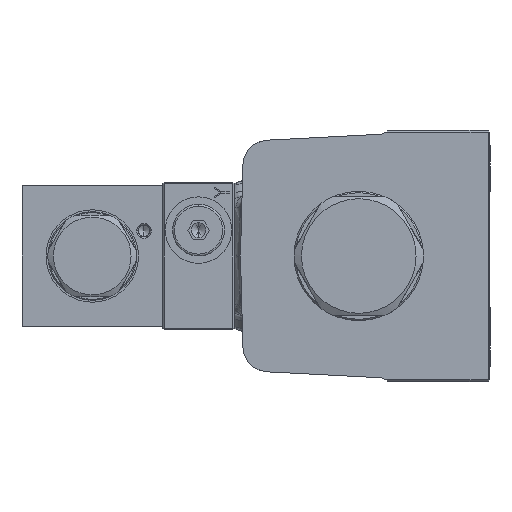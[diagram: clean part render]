
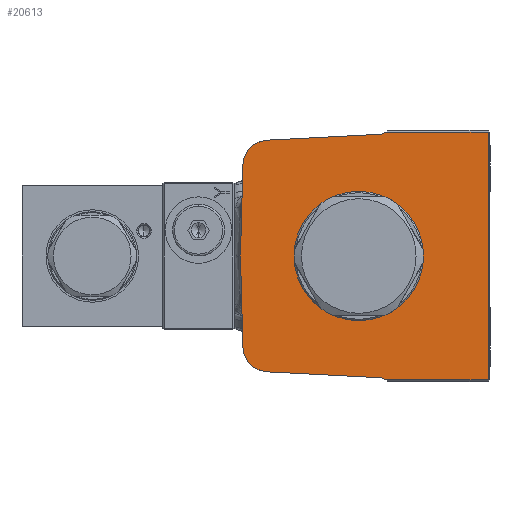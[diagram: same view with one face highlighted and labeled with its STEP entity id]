
A CAD part, left-side view. The second image highlights one B-rep face of the part: STEP entity #20613.
In plain terms, the highlighted planar face has unit normal (-1, 0, 0).
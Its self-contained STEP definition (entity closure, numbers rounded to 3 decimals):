
#478 = ORIENTED_EDGE ( 'NONE', *, *, #12609, .F. ) ;
#690 = LINE ( 'NONE', #26859, #79748 ) ;
#1852 = EDGE_CURVE ( 'NONE', #63688, #19487, #690, .T. ) ;
#1980 = DIRECTION ( 'NONE',  ( 0., 0., 1. ) ) ;
#3201 = CIRCLE ( 'NONE', #40745, 16. ) ;
#3906 = DIRECTION ( 'NONE',  ( 0., 1., 0. ) ) ;
#5362 = AXIS2_PLACEMENT_3D ( 'NONE', #61129, #23699, #67431 ) ;
#5393 = VECTOR ( 'NONE', #47706, 1000. ) ;
#5508 = EDGE_CURVE ( 'NONE', #37498, #10747, #43025, .T. ) ;
#6969 = DIRECTION ( 'NONE',  ( -1., 0., 0. ) ) ;
#10415 = CARTESIAN_POINT ( 'NONE',  ( -46.6, 1.706, -32.544 ) ) ;
#10747 = VERTEX_POINT ( 'NONE', #21587 ) ;
#11181 = EDGE_CURVE ( 'NONE', #10747, #27205, #58104, .T. ) ;
#11840 = VECTOR ( 'NONE', #69205, 1000. ) ;
#11846 = CARTESIAN_POINT ( 'NONE',  ( -46.6, 24.726, -31.337 ) ) ;
#12302 = DIRECTION ( 'NONE',  ( 1., 0., 0. ) ) ;
#12567 = CARTESIAN_POINT ( 'NONE',  ( -46.6, 24.36, -24.347 ) ) ;
#12609 = EDGE_CURVE ( 'NONE', #38409, #61840, #3201, .T. ) ;
#13473 = FACE_OUTER_BOUND ( 'NONE', #65236, .T. ) ;
#14253 = CIRCLE ( 'NONE', #38541, 7. ) ;
#14458 = DIRECTION ( 'NONE',  ( 0., -0.026, -1. ) ) ;
#14746 = CIRCLE ( 'NONE', #69027, 7. ) ;
#16098 = CARTESIAN_POINT ( 'NONE',  ( -46.6, 31.358, -24.53 ) ) ;
#16667 = VERTEX_POINT ( 'NONE', #16098 ) ;
#16931 = EDGE_CURVE ( 'NONE', #28523, #19487, #59799, .T. ) ;
#17509 = ORIENTED_EDGE ( 'NONE', *, *, #16931, .T. ) ;
#18831 = DIRECTION ( 'NONE',  ( 0., 0., 1. ) ) ;
#19233 = CARTESIAN_POINT ( 'NONE',  ( -46.6, -35.5, -33.5 ) ) ;
#19487 = VERTEX_POINT ( 'NONE', #33732 ) ;
#19583 = ORIENTED_EDGE ( 'NONE', *, *, #20646, .T. ) ;
#19761 = CARTESIAN_POINT ( 'NONE',  ( -46.6, -35., 33.5 ) ) ;
#19875 = ORIENTED_EDGE ( 'NONE', *, *, #79630, .T. ) ;
#20613 = ADVANCED_FACE ( 'NONE', ( #13473, #61284 ), #35972, .T. ) ;
#20646 = EDGE_CURVE ( 'NONE', #69778, #37498, #64188, .T. ) ;
#20871 = DIRECTION ( 'NONE',  ( 0., -0.999, 0.052 ) ) ;
#20985 = CARTESIAN_POINT ( 'NONE',  ( -46.6, 31.978, -0.837 ) ) ;
#21587 = CARTESIAN_POINT ( 'NONE',  ( -46.6, -35., -33.5 ) ) ;
#22281 = DIRECTION ( 'NONE',  ( 1., 0., 0. ) ) ;
#23699 = DIRECTION ( 'NONE',  ( -1., 0., 0. ) ) ;
#25138 = CARTESIAN_POINT ( 'NONE',  ( -46.6, 16., 0. ) ) ;
#26494 = ORIENTED_EDGE ( 'NONE', *, *, #60174, .F. ) ;
#26859 = CARTESIAN_POINT ( 'NONE',  ( -46.6, 1.706, 32.544 ) ) ;
#27205 = VERTEX_POINT ( 'NONE', #19761 ) ;
#27425 = AXIS2_PLACEMENT_3D ( 'NONE', #59654, #22281, #65977 ) ;
#28523 = VERTEX_POINT ( 'NONE', #73587 ) ;
#30565 = LINE ( 'NONE', #41143, #61862 ) ;
#31410 = DIRECTION ( 'NONE',  ( -1., 0., 0. ) ) ;
#33015 = CARTESIAN_POINT ( 'NONE',  ( -46.6, 31.358, 24.53 ) ) ;
#33732 = CARTESIAN_POINT ( 'NONE',  ( -46.6, -5.85, 32.94 ) ) ;
#34148 = VERTEX_POINT ( 'NONE', #11846 ) ;
#34557 = AXIS2_PLACEMENT_3D ( 'NONE', #49567, #12302, #55888 ) ;
#35379 = CARTESIAN_POINT ( 'NONE',  ( -46.6, -16., 0. ) ) ;
#35724 = DIRECTION ( 'NONE',  ( -1., 0., 0. ) ) ;
#35972 = PLANE ( 'NONE',  #5362 ) ;
#36264 = ORIENTED_EDGE ( 'NONE', *, *, #51261, .T. ) ;
#36851 = ORIENTED_EDGE ( 'NONE', *, *, #5508, .T. ) ;
#37498 = VERTEX_POINT ( 'NONE', #70019 ) ;
#38409 = VERTEX_POINT ( 'NONE', #35379 ) ;
#38541 = AXIS2_PLACEMENT_3D ( 'NONE', #44270, #6969, #50499 ) ;
#40745 = AXIS2_PLACEMENT_3D ( 'NONE', #73249, #35724, #79534 ) ;
#40935 = ORIENTED_EDGE ( 'NONE', *, *, #63445, .T. ) ;
#41143 = CARTESIAN_POINT ( 'NONE',  ( -46.6, -35.5, 33.5 ) ) ;
#41477 = LINE ( 'NONE', #20985, #58113 ) ;
#42450 = EDGE_CURVE ( 'NONE', #71842, #72882, #60929, .T. ) ;
#43025 = LINE ( 'NONE', #19233, #11840 ) ;
#43176 = ORIENTED_EDGE ( 'NONE', *, *, #42450, .F. ) ;
#44270 = CARTESIAN_POINT ( 'NONE',  ( -46.6, 24.36, 24.347 ) ) ;
#44282 = VECTOR ( 'NONE', #69146, 1000. ) ;
#47706 = DIRECTION ( 'NONE',  ( 0., -0.999, -0.052 ) ) ;
#49567 = CARTESIAN_POINT ( 'NONE',  ( -46.6, -5.693, -35.936 ) ) ;
#50499 = DIRECTION ( 'NONE',  ( 0., 0., 1. ) ) ;
#51261 = EDGE_CURVE ( 'NONE', #71842, #16667, #41477, .T. ) ;
#51767 = ORIENTED_EDGE ( 'NONE', *, *, #71392, .T. ) ;
#55888 = DIRECTION ( 'NONE',  ( 0., 0., 1. ) ) ;
#56131 = VECTOR ( 'NONE', #1980, 1000. ) ;
#56170 = DIRECTION ( 'NONE',  ( 1., 0., 0. ) ) ;
#56873 = ORIENTED_EDGE ( 'NONE', *, *, #11181, .T. ) ;
#57019 = EDGE_CURVE ( 'NONE', #34148, #16667, #14746, .T. ) ;
#58104 = LINE ( 'NONE', #64095, #56131 ) ;
#58113 = VECTOR ( 'NONE', #14458, 1000. ) ;
#58934 = CARTESIAN_POINT ( 'NONE',  ( -46.6, -5.85, -32.94 ) ) ;
#59246 = CARTESIAN_POINT ( 'NONE',  ( -46.6, 24.726, 31.337 ) ) ;
#59654 = CARTESIAN_POINT ( 'NONE',  ( -46.6, -5.693, 35.936 ) ) ;
#59799 = CIRCLE ( 'NONE', #27425, 3. ) ;
#60174 = EDGE_CURVE ( 'NONE', #61840, #38409, #79473, .T. ) ;
#60929 = LINE ( 'NONE', #75207, #44282 ) ;
#61129 = CARTESIAN_POINT ( 'NONE',  ( -46.6, -35.5, -34. ) ) ;
#61284 = FACE_BOUND ( 'NONE', #78574, .T. ) ;
#61840 = VERTEX_POINT ( 'NONE', #25138 ) ;
#61862 = VECTOR ( 'NONE', #3906, 1000. ) ;
#61913 = ORIENTED_EDGE ( 'NONE', *, *, #57019, .F. ) ;
#63445 = EDGE_CURVE ( 'NONE', #63688, #72882, #14253, .T. ) ;
#63688 = VERTEX_POINT ( 'NONE', #59246 ) ;
#64095 = CARTESIAN_POINT ( 'NONE',  ( -46.6, -35., -34. ) ) ;
#64103 = CARTESIAN_POINT ( 'NONE',  ( -46.6, 32., 0. ) ) ;
#64188 = CIRCLE ( 'NONE', #34557, 3. ) ;
#65236 = EDGE_LOOP ( 'NONE', ( #19583, #36851, #56873, #51767, #17509, #73496, #40935, #43176, #36264, #61913, #19875 ) ) ;
#65950 = AXIS2_PLACEMENT_3D ( 'NONE', #68890, #31410, #75225 ) ;
#65977 = DIRECTION ( 'NONE',  ( 0., 0., 1. ) ) ;
#67431 = DIRECTION ( 'NONE',  ( 0., 0., 1. ) ) ;
#68890 = CARTESIAN_POINT ( 'NONE',  ( -46.6, 0., 0. ) ) ;
#69027 = AXIS2_PLACEMENT_3D ( 'NONE', #12567, #56170, #18831 ) ;
#69146 = DIRECTION ( 'NONE',  ( 0., -0.026, 1. ) ) ;
#69205 = DIRECTION ( 'NONE',  ( 0., -1., 0. ) ) ;
#69778 = VERTEX_POINT ( 'NONE', #58934 ) ;
#69851 = LINE ( 'NONE', #10415, #5393 ) ;
#70019 = CARTESIAN_POINT ( 'NONE',  ( -46.6, -7.444, -33.5 ) ) ;
#71392 = EDGE_CURVE ( 'NONE', #27205, #28523, #30565, .T. ) ;
#71842 = VERTEX_POINT ( 'NONE', #64103 ) ;
#72882 = VERTEX_POINT ( 'NONE', #33015 ) ;
#73249 = CARTESIAN_POINT ( 'NONE',  ( -46.6, 0., 0. ) ) ;
#73496 = ORIENTED_EDGE ( 'NONE', *, *, #1852, .F. ) ;
#73587 = CARTESIAN_POINT ( 'NONE',  ( -46.6, -7.444, 33.5 ) ) ;
#75207 = CARTESIAN_POINT ( 'NONE',  ( -46.6, 31.978, 0.837 ) ) ;
#75225 = DIRECTION ( 'NONE',  ( 0., -1., 0. ) ) ;
#78574 = EDGE_LOOP ( 'NONE', ( #478, #26494 ) ) ;
#79473 = CIRCLE ( 'NONE', #65950, 16. ) ;
#79534 = DIRECTION ( 'NONE',  ( 0., -1., 0. ) ) ;
#79630 = EDGE_CURVE ( 'NONE', #34148, #69778, #69851, .T. ) ;
#79748 = VECTOR ( 'NONE', #20871, 1000. ) ;
